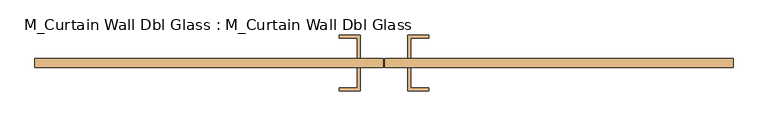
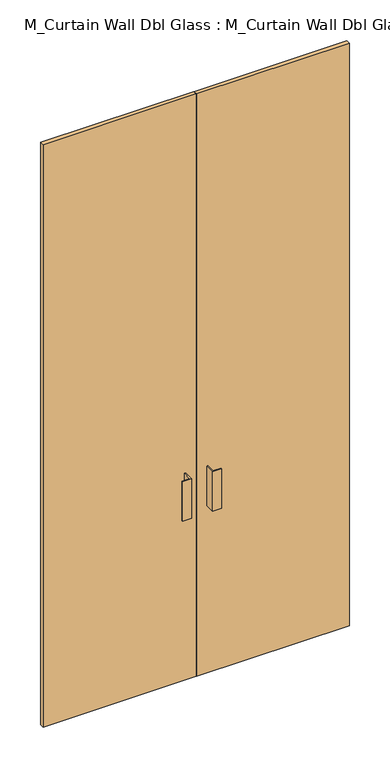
"""IFC4 building model written with IfcOpenShell, lengths in millimetres: door geometry, M_Curtain Wall Dbl Glass : M_Curtain Wall Dbl Glass."""

from ifc_helpers import new_model, si_unit, frame, origin, origin_with_axes, place, context, project, spatial, polyline, outline, extrude, source, transform, mapped, element, save


def m_curtain_wall_dbl_glass_m_curtain_wall_dbl_glass_bace0294(model_context):
    return source(origin(), model_context, "Body", "SweptSolid", [
        extrude(outline(polyline([(-1.5875, -30.95), (-1.5875, -50.0), (-747.0, -50.0), (-747.0, -30.95), (-1.5875, -30.95)])), origin_with_axes(), (0.0, 0.0, 1.0), 3003.0),
        extrude(outline(polyline([(747.0, -30.95), (747.0, -50.0), (1.5875, -50.0), (1.5875, -30.95), (747.0, -30.95)])), origin_with_axes(), (0.0, 0.0, 1.0), 3003.0),
        extrude(outline(polyline([(-50.8, -100.8), (-95.25, -100.8), (-95.25, -94.45), (-57.15, -94.45), (-57.15, -50.0), (-50.8, -50.0), (-50.8, -100.8)])), frame((0.0, 0.0, 863.6), z_axis=(0.0, 0.0, 1.0), x_axis=(1.0, 0.0, 0.0)), (0.0, 0.0, 1.0), 203.2),
        extrude(outline(polyline([(50.8, -100.8), (50.8, -50.0), (57.15, -50.0), (57.15, -94.45), (95.25, -94.45), (95.25, -100.8), (50.8, -100.8)])), frame((0.0, 0.0, 863.6), z_axis=(0.0, 0.0, 1.0), x_axis=(1.0, 0.0, 0.0)), (0.0, 0.0, 1.0), 203.2),
        extrude(outline(polyline([(-50.8, 19.85), (-50.8, -30.95), (-57.15, -30.95), (-57.15, 13.5), (-95.25, 13.5), (-95.25, 19.85), (-50.8, 19.85)])), frame((0.0, 0.0, 863.6), z_axis=(0.0, 0.0, 1.0), x_axis=(1.0, 0.0, 0.0)), (0.0, 0.0, 1.0), 203.2),
        extrude(outline(polyline([(50.8, 19.85), (95.25, 19.85), (95.25, 13.5), (57.15, 13.5), (57.15, -30.95), (50.8, -30.95), (50.8, 19.85)])), frame((0.0, 0.0, 863.6), z_axis=(0.0, 0.0, 1.0), x_axis=(1.0, 0.0, 0.0)), (0.0, 0.0, 1.0), 203.2),
    ])


if __name__ == "__main__":
    model = new_model("IFC4")
    model_context = context("Model", 3, world=origin())
    ifc_project = project(units=[si_unit("LENGTHUNIT", "METRE", prefix="MILLI")], contexts=[model_context])
    site = spatial("IfcSite", under=ifc_project)
    building = spatial("IfcBuilding", under=site)
    placement = place(None, origin())
    m_curtain_wall_dbl_glass_m_curtain_wall_dbl_glass_shape = m_curtain_wall_dbl_glass_m_curtain_wall_dbl_glass_bace0294(model_context)
    element("IfcDoor", 1, ObjectType="M_Curtain Wall Dbl Glass : M_Curtain Wall Dbl Glass", at=placement, inside=building, context=model_context, shape_type="MappedRepresentation", body=[
        mapped(m_curtain_wall_dbl_glass_m_curtain_wall_dbl_glass_shape, transform((0.0, 0.0, 0.0), x_axis=(1.0, 0.0, 0.0), y_axis=(0.0, 1.0, 0.0), z_axis=(0.0, 0.0, 1.0))),
    ])
    save(model, "model.ifc")
